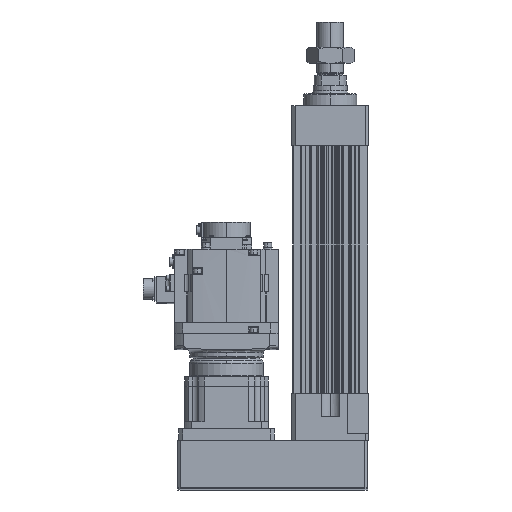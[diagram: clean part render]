
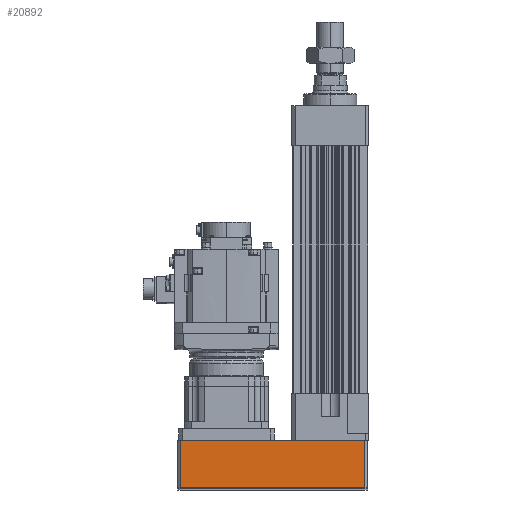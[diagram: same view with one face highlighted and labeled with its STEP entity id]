
A CAD part, left-side view. The second image highlights one B-rep face of the part: STEP entity #20892.
In plain terms, the highlighted planar face has unit normal (-1, 0, 0).
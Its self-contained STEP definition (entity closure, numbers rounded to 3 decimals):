
#724 = VECTOR ( 'NONE', #39009, 1000. ) ;
#2780 = AXIS2_PLACEMENT_3D ( 'NONE', #5198, #31199, #27047 ) ;
#3746 = VERTEX_POINT ( 'NONE', #8442 ) ;
#5198 = CARTESIAN_POINT ( 'NONE',  ( -63.5, 63.5, 81. ) ) ;
#5661 = CARTESIAN_POINT ( 'NONE',  ( -63.5, 59., 80.5 ) ) ;
#8192 = VECTOR ( 'NONE', #22450, 1000. ) ;
#8396 = DIRECTION ( 'NONE',  ( 0., -1., 0. ) ) ;
#8442 = CARTESIAN_POINT ( 'NONE',  ( -63.5, -254.5, 80.5 ) ) ;
#9968 = VECTOR ( 'NONE', #35470, 1000. ) ;
#11151 = FACE_OUTER_BOUND ( 'NONE', #47678, .T. ) ;
#11691 = CARTESIAN_POINT ( 'NONE',  ( -63.5, 59., 0.5 ) ) ;
#17337 = EDGE_CURVE ( 'NONE', #37772, #3746, #35085, .T. ) ;
#17783 = CARTESIAN_POINT ( 'NONE',  ( -63.5, -254.5, 81. ) ) ;
#20892 = ADVANCED_FACE ( 'NONE', ( #11151 ), #52507, .F. ) ;
#22356 = ORIENTED_EDGE ( 'NONE', *, *, #17337, .T. ) ;
#22450 = DIRECTION ( 'NONE',  ( 0., 1., 0. ) ) ;
#23031 = VERTEX_POINT ( 'NONE', #11691 ) ;
#27047 = DIRECTION ( 'NONE',  ( 0., 1., 0. ) ) ;
#27050 = CARTESIAN_POINT ( 'NONE',  ( -63.5, -254.5, 0.5 ) ) ;
#30271 = CARTESIAN_POINT ( 'NONE',  ( -63.5, 63.5, 0.5 ) ) ;
#30494 = LINE ( 'NONE', #5661, #8192 ) ;
#31199 = DIRECTION ( 'NONE',  ( 1., 0., 0. ) ) ;
#32696 = VERTEX_POINT ( 'NONE', #33681 ) ;
#32873 = LINE ( 'NONE', #35111, #9968 ) ;
#33674 = EDGE_CURVE ( 'NONE', #32696, #23031, #32873, .T. ) ;
#33681 = CARTESIAN_POINT ( 'NONE',  ( -63.5, 59., 80.5 ) ) ;
#35085 = LINE ( 'NONE', #17783, #724 ) ;
#35111 = CARTESIAN_POINT ( 'NONE',  ( -63.5, 59., 81. ) ) ;
#35470 = DIRECTION ( 'NONE',  ( 0., 0., -1. ) ) ;
#37772 = VERTEX_POINT ( 'NONE', #27050 ) ;
#39009 = DIRECTION ( 'NONE',  ( 0., 0., 1. ) ) ;
#42885 = ORIENTED_EDGE ( 'NONE', *, *, #33674, .T. ) ;
#43951 = EDGE_CURVE ( 'NONE', #23031, #37772, #53932, .T. ) ;
#46081 = ORIENTED_EDGE ( 'NONE', *, *, #43951, .T. ) ;
#47678 = EDGE_LOOP ( 'NONE', ( #42885, #46081, #22356, #49268 ) ) ;
#49268 = ORIENTED_EDGE ( 'NONE', *, *, #50669, .T. ) ;
#50669 = EDGE_CURVE ( 'NONE', #3746, #32696, #30494, .T. ) ;
#52507 = PLANE ( 'NONE',  #2780 ) ;
#52599 = VECTOR ( 'NONE', #8396, 1000. ) ;
#53932 = LINE ( 'NONE', #30271, #52599 ) ;
